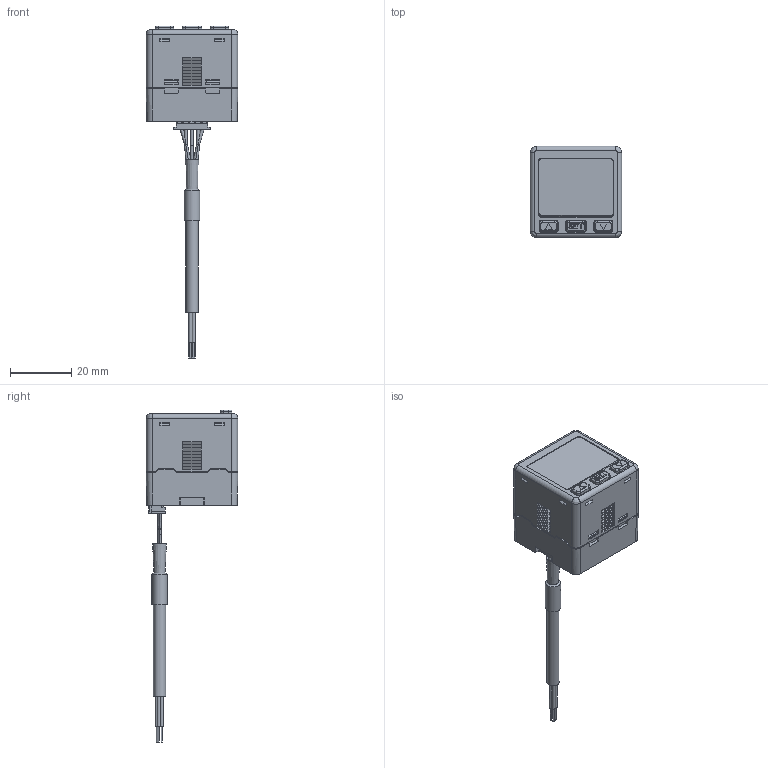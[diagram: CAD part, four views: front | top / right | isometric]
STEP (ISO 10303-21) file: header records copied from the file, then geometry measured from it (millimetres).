
FILE_DESCRIPTION(('STEP AP203'),'1');
FILE_NAME('-M5.stp','2025-06-20T07:58:50',(' '),(' '),'Spatial InterOp 3D',' ',' ');
FILE_SCHEMA(('CONFIG_CONTROL_DESIGN'));
Length unit declared in the file: millimetre
Products named in the file (4): P8※※-※※※-M5; KP800_SW0003BT-20
Assembly tree (3 placements, depth 2):
  P8※※-※※※-M5
    KP800_SW0003BT-20
    KP800_SW0003BT-20
    KP800_SW0003BT-20
Bounding box: 30.03 x 30 x 108.85 mm (x, y, z)
Volume: 9853.8 mm3; surface area: 15706.1 mm2
Topology: 3 solids, 3 shells, 1272 faces, 3412 edges, 2177 vertices
Faces by surface type: plane 998, cylinder 179, bspline 36, cone 34, torus 16, sphere 9
Full cylindrical faces by diameter (mm): 0.4 x5, 0.8 x2, 1 x3, 1.5 x1, 2 x2, 3.3 x2, 3.5 x3, 4 x1, 4.6 x2, 5 x3
Entity records: 40579 total; most frequent: CARTESIAN_POINT 8914, ORIENTED_EDGE 6666, DIRECTION 6106, EDGE_CURVE 3333, LINE 2774, VECTOR 2774, VERTEX_POINT 2152, AXIS2_PLACEMENT_3D 1666
